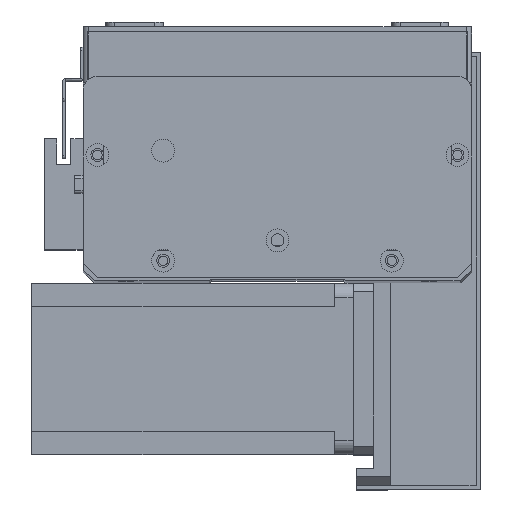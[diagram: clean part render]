
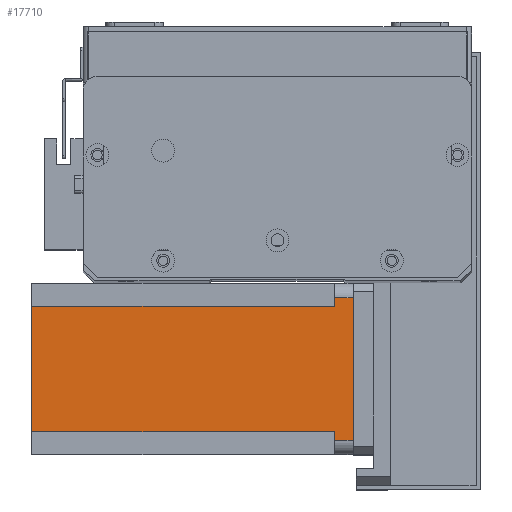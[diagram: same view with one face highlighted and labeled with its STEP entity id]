
A CAD part, top view. The second image highlights one B-rep face of the part: STEP entity #17710.
In plain terms, the highlighted planar face has unit normal (0, 0, 1) as drawn and (0, -1, 0) by its records, which use the part's own axes.
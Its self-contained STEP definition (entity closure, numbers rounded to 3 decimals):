
#1024 = LINE ( 'NONE', #3878, #17375 ) ;
#3217 = CARTESIAN_POINT ( 'NONE',  ( 52., 0., -6.5 ) ) ;
#3878 = CARTESIAN_POINT ( 'NONE',  ( 0., 0., -112.5 ) ) ;
#3974 = DIRECTION ( 'NONE',  ( 1., 0., 0. ) ) ;
#4283 = LINE ( 'NONE', #27172, #8786 ) ;
#4952 = VERTEX_POINT ( 'NONE', #19844 ) ;
#5192 = VECTOR ( 'NONE', #13604, 1000. ) ;
#5783 = ORIENTED_EDGE ( 'NONE', *, *, #10998, .T. ) ;
#5803 = VERTEX_POINT ( 'NONE', #14127 ) ;
#6229 = VECTOR ( 'NONE', #10974, 1000. ) ;
#6444 = CARTESIAN_POINT ( 'NONE',  ( 55., 0., -6.5 ) ) ;
#7732 = ORIENTED_EDGE ( 'NONE', *, *, #9719, .T. ) ;
#7804 = EDGE_CURVE ( 'NONE', #17421, #12529, #18401, .T. ) ;
#7891 = EDGE_CURVE ( 'NONE', #10922, #18543, #17035, .T. ) ;
#8043 = EDGE_LOOP ( 'NONE', ( #22637, #7732, #12734, #5783, #25313, #20861, #25611, #15494 ) ) ;
#8126 = DIRECTION ( 'NONE',  ( 0., 0., -1. ) ) ;
#8786 = VECTOR ( 'NONE', #27828, 1000. ) ;
#8861 = LINE ( 'NONE', #21850, #20046 ) ;
#9254 = DIRECTION ( 'NONE',  ( -1., 0., 0. ) ) ;
#9452 = CARTESIAN_POINT ( 'NONE',  ( 8., 0., -6.5 ) ) ;
#9719 = EDGE_CURVE ( 'NONE', #18543, #12529, #8861, .T. ) ;
#9748 = CARTESIAN_POINT ( 'NONE',  ( 52., 0., -112.5 ) ) ;
#9951 = FACE_OUTER_BOUND ( 'NONE', #8043, .T. ) ;
#9995 = CARTESIAN_POINT ( 'NONE',  ( 8., 0., -112.5 ) ) ;
#10922 = VERTEX_POINT ( 'NONE', #3217 ) ;
#10974 = DIRECTION ( 'NONE',  ( 0., 0., 1. ) ) ;
#10998 = EDGE_CURVE ( 'NONE', #17421, #5803, #4283, .T. ) ;
#11427 = LINE ( 'NONE', #9452, #17391 ) ;
#12529 = VERTEX_POINT ( 'NONE', #25698 ) ;
#12734 = ORIENTED_EDGE ( 'NONE', *, *, #7804, .F. ) ;
#13467 = VECTOR ( 'NONE', #23128, 1000. ) ;
#13522 = VERTEX_POINT ( 'NONE', #17170 ) ;
#13604 = DIRECTION ( 'NONE',  ( 1., 0., 0. ) ) ;
#13685 = CARTESIAN_POINT ( 'NONE',  ( 52., 0., -6.5 ) ) ;
#14127 = CARTESIAN_POINT ( 'NONE',  ( 5., 0., -6.5 ) ) ;
#14600 = EDGE_CURVE ( 'NONE', #23606, #5803, #11427, .T. ) ;
#14983 = EDGE_CURVE ( 'NONE', #4952, #23606, #18741, .T. ) ;
#15194 = DIRECTION ( 'NONE',  ( 0., 0., 1. ) ) ;
#15494 = ORIENTED_EDGE ( 'NONE', *, *, #17568, .F. ) ;
#15896 = EDGE_CURVE ( 'NONE', #4952, #13522, #1024, .T. ) ;
#17035 = LINE ( 'NONE', #13685, #5192 ) ;
#17170 = CARTESIAN_POINT ( 'NONE',  ( 52., 0., -112.5 ) ) ;
#17375 = VECTOR ( 'NONE', #3974, 1000. ) ;
#17391 = VECTOR ( 'NONE', #9254, 1000. ) ;
#17421 = VERTEX_POINT ( 'NONE', #19933 ) ;
#17568 = EDGE_CURVE ( 'NONE', #10922, #13522, #25205, .T. ) ;
#17710 = ADVANCED_FACE ( 'NONE', ( #9951 ), #19220, .T. ) ;
#18401 = LINE ( 'NONE', #22963, #19840 ) ;
#18543 = VERTEX_POINT ( 'NONE', #6444 ) ;
#18741 = LINE ( 'NONE', #9995, #6229 ) ;
#19220 = PLANE ( 'NONE',  #28488 ) ;
#19840 = VECTOR ( 'NONE', #24887, 1000. ) ;
#19844 = CARTESIAN_POINT ( 'NONE',  ( 8., 0., -112.5 ) ) ;
#19933 = CARTESIAN_POINT ( 'NONE',  ( 5., 0., 0. ) ) ;
#20046 = VECTOR ( 'NONE', #15194, 1000. ) ;
#20330 = CARTESIAN_POINT ( 'NONE',  ( 8., 0., -6.5 ) ) ;
#20861 = ORIENTED_EDGE ( 'NONE', *, *, #14983, .F. ) ;
#21403 = CARTESIAN_POINT ( 'NONE',  ( 0., 0., -112.5 ) ) ;
#21503 = DIRECTION ( 'NONE',  ( 0., -1., 0. ) ) ;
#21850 = CARTESIAN_POINT ( 'NONE',  ( 55., 0., -112.5 ) ) ;
#22637 = ORIENTED_EDGE ( 'NONE', *, *, #7891, .T. ) ;
#22963 = CARTESIAN_POINT ( 'NONE',  ( 0., 0., 0. ) ) ;
#23128 = DIRECTION ( 'NONE',  ( 0., 0., -1. ) ) ;
#23606 = VERTEX_POINT ( 'NONE', #20330 ) ;
#24887 = DIRECTION ( 'NONE',  ( 1., 0., 0. ) ) ;
#25205 = LINE ( 'NONE', #9748, #13467 ) ;
#25313 = ORIENTED_EDGE ( 'NONE', *, *, #14600, .F. ) ;
#25611 = ORIENTED_EDGE ( 'NONE', *, *, #15896, .T. ) ;
#25698 = CARTESIAN_POINT ( 'NONE',  ( 55., 0., 0. ) ) ;
#27172 = CARTESIAN_POINT ( 'NONE',  ( 5., 0., -112.5 ) ) ;
#27828 = DIRECTION ( 'NONE',  ( 0., 0., -1. ) ) ;
#28488 = AXIS2_PLACEMENT_3D ( 'NONE', #21403, #21503, #8126 ) ;
